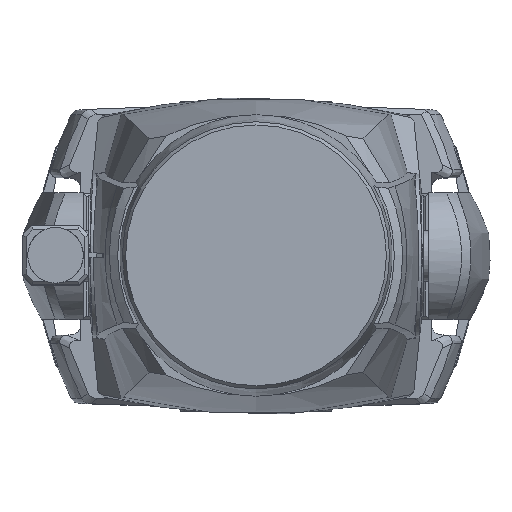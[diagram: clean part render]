
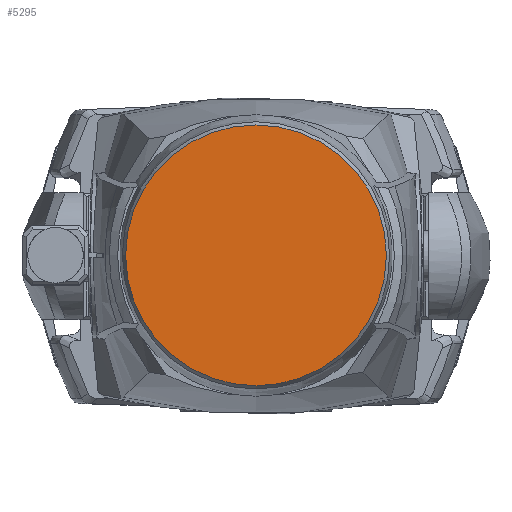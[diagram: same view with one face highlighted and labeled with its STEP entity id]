
A CAD part, top view. The second image highlights one B-rep face of the part: STEP entity #5295.
In plain terms, the highlighted planar face has unit normal (0, 0, 1).
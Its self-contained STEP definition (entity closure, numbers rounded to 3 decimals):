
#326=CIRCLE('',#5695,140.833);
#1846=ORIENTED_EDGE('',*,*,#2928,.T.);
#2928=EDGE_CURVE('',#3551,#3551,#326,.T.);
#3551=VERTEX_POINT('',#13079);
#4520=EDGE_LOOP('',(#1846));
#4843=FACE_BOUND('',#4520,.T.);
#5052=PLANE('',#5694);
#5295=ADVANCED_FACE('',(#4843),#5052,.T.);
#5694=AXIS2_PLACEMENT_3D('',#13077,#6576,#6577);
#5695=AXIS2_PLACEMENT_3D('',#13078,#6578,#6579);
#6576=DIRECTION('',(0.,0.,1.));
#6577=DIRECTION('',(1.,0.,0.));
#6578=DIRECTION('',(0.,0.,1.));
#6579=DIRECTION('',(1.,0.,0.));
#13077=CARTESIAN_POINT('',(0.,0.,341.4));
#13078=CARTESIAN_POINT('',(0.,0.,341.4));
#13079=CARTESIAN_POINT('',(140.833,0.,341.4));
